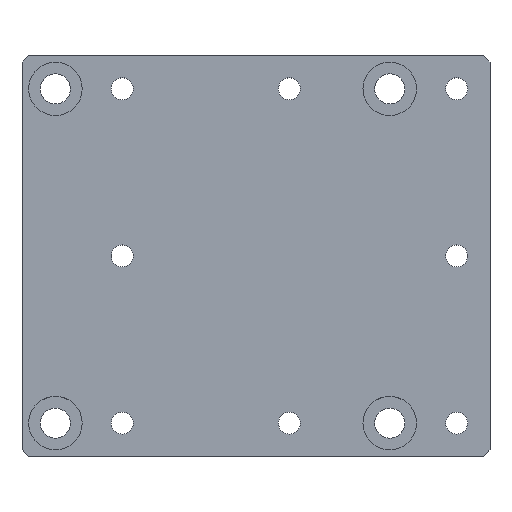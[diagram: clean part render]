
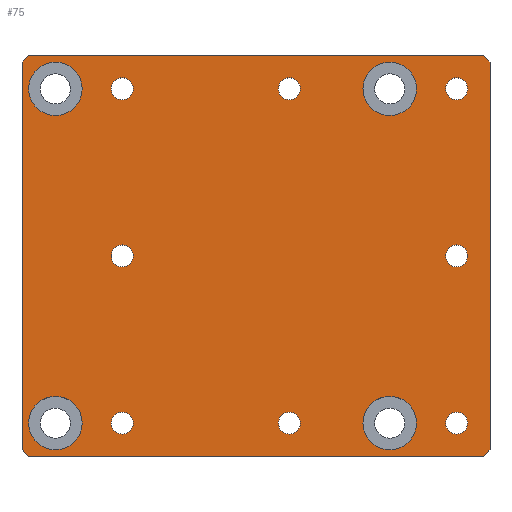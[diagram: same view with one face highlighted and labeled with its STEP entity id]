
A CAD part, top view. The second image highlights one B-rep face of the part: STEP entity #75.
In plain terms, the highlighted planar face has unit normal (0, 0, 1).
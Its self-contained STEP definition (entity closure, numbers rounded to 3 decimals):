
#75 = ADVANCED_FACE( '', ( #106, #107, #108, #109, #110, #111, #112, #113, #114, #115, #116, #117, #118 ), #119, .T. );
#106 = FACE_OUTER_BOUND( '', #210, .T. );
#107 = FACE_BOUND( '', #211, .T. );
#108 = FACE_BOUND( '', #212, .T. );
#109 = FACE_BOUND( '', #213, .T. );
#110 = FACE_BOUND( '', #214, .T. );
#111 = FACE_BOUND( '', #215, .T. );
#112 = FACE_BOUND( '', #216, .T. );
#113 = FACE_BOUND( '', #217, .T. );
#114 = FACE_BOUND( '', #218, .T. );
#115 = FACE_BOUND( '', #219, .T. );
#116 = FACE_BOUND( '', #220, .T. );
#117 = FACE_BOUND( '', #221, .T. );
#118 = FACE_BOUND( '', #222, .T. );
#119 = PLANE( '', #223 );
#210 = EDGE_LOOP( '', ( #314, #315, #316, #317, #318, #319, #320, #321 ) );
#211 = EDGE_LOOP( '', ( #322 ) );
#212 = EDGE_LOOP( '', ( #323 ) );
#213 = EDGE_LOOP( '', ( #324 ) );
#214 = EDGE_LOOP( '', ( #325 ) );
#215 = EDGE_LOOP( '', ( #326 ) );
#216 = EDGE_LOOP( '', ( #327 ) );
#217 = EDGE_LOOP( '', ( #328 ) );
#218 = EDGE_LOOP( '', ( #329 ) );
#219 = EDGE_LOOP( '', ( #330 ) );
#220 = EDGE_LOOP( '', ( #331 ) );
#221 = EDGE_LOOP( '', ( #332 ) );
#222 = EDGE_LOOP( '', ( #333 ) );
#223 = AXIS2_PLACEMENT_3D( '', #334, #335, #336 );
#314 = ORIENTED_EDGE( '', *, *, #516, .F. );
#315 = ORIENTED_EDGE( '', *, *, #517, .T. );
#316 = ORIENTED_EDGE( '', *, *, #518, .F. );
#317 = ORIENTED_EDGE( '', *, *, #519, .T. );
#318 = ORIENTED_EDGE( '', *, *, #520, .F. );
#319 = ORIENTED_EDGE( '', *, *, #521, .T. );
#320 = ORIENTED_EDGE( '', *, *, #522, .F. );
#321 = ORIENTED_EDGE( '', *, *, #523, .T. );
#322 = ORIENTED_EDGE( '', *, *, #524, .T. );
#323 = ORIENTED_EDGE( '', *, *, #525, .T. );
#324 = ORIENTED_EDGE( '', *, *, #526, .T. );
#325 = ORIENTED_EDGE( '', *, *, #527, .T. );
#326 = ORIENTED_EDGE( '', *, *, #528, .T. );
#327 = ORIENTED_EDGE( '', *, *, #529, .T. );
#328 = ORIENTED_EDGE( '', *, *, #530, .T. );
#329 = ORIENTED_EDGE( '', *, *, #531, .T. );
#330 = ORIENTED_EDGE( '', *, *, #532, .T. );
#331 = ORIENTED_EDGE( '', *, *, #533, .T. );
#332 = ORIENTED_EDGE( '', *, *, #534, .T. );
#333 = ORIENTED_EDGE( '', *, *, #535, .T. );
#334 = CARTESIAN_POINT( '', ( 0., 0., 4. ) );
#335 = DIRECTION( '', ( 0., 0., 1. ) );
#336 = DIRECTION( '', ( 1., 0., 0. ) );
#516 = EDGE_CURVE( '', #572, #573, #574, .T. );
#517 = EDGE_CURVE( '', #572, #575, #576, .T. );
#518 = EDGE_CURVE( '', #577, #575, #578, .T. );
#519 = EDGE_CURVE( '', #577, #579, #580, .T. );
#520 = EDGE_CURVE( '', #581, #579, #582, .T. );
#521 = EDGE_CURVE( '', #581, #583, #584, .T. );
#522 = EDGE_CURVE( '', #585, #583, #586, .T. );
#523 = EDGE_CURVE( '', #585, #573, #587, .T. );
#524 = EDGE_CURVE( '', #588, #588, #589, .T. );
#525 = EDGE_CURVE( '', #590, #590, #591, .T. );
#526 = EDGE_CURVE( '', #592, #592, #593, .T. );
#527 = EDGE_CURVE( '', #594, #594, #595, .T. );
#528 = EDGE_CURVE( '', #596, #596, #597, .T. );
#529 = EDGE_CURVE( '', #598, #598, #599, .T. );
#530 = EDGE_CURVE( '', #600, #600, #601, .T. );
#531 = EDGE_CURVE( '', #602, #602, #603, .T. );
#532 = EDGE_CURVE( '', #604, #604, #605, .T. );
#533 = EDGE_CURVE( '', #606, #606, #607, .T. );
#534 = EDGE_CURVE( '', #608, #608, #609, .T. );
#535 = EDGE_CURVE( '', #610, #610, #611, .T. );
#572 = VERTEX_POINT( '', #676 );
#573 = VERTEX_POINT( '', #677 );
#574 = LINE( '', #678, #679 );
#575 = VERTEX_POINT( '', #680 );
#576 = LINE( '', #681, #682 );
#577 = VERTEX_POINT( '', #683 );
#578 = LINE( '', #684, #685 );
#579 = VERTEX_POINT( '', #686 );
#580 = LINE( '', #687, #688 );
#581 = VERTEX_POINT( '', #689 );
#582 = LINE( '', #690, #691 );
#583 = VERTEX_POINT( '', #692 );
#584 = LINE( '', #693, #694 );
#585 = VERTEX_POINT( '', #695 );
#586 = LINE( '', #696, #697 );
#587 = LINE( '', #698, #699 );
#588 = VERTEX_POINT( '', #700 );
#589 = CIRCLE( '', #701, 4. );
#590 = VERTEX_POINT( '', #702 );
#591 = CIRCLE( '', #703, 4. );
#592 = VERTEX_POINT( '', #704 );
#593 = CIRCLE( '', #705, 4. );
#594 = VERTEX_POINT( '', #706 );
#595 = CIRCLE( '', #707, 4. );
#596 = VERTEX_POINT( '', #708 );
#597 = CIRCLE( '', #709, 1.65 );
#598 = VERTEX_POINT( '', #710 );
#599 = CIRCLE( '', #711, 1.65 );
#600 = VERTEX_POINT( '', #712 );
#601 = CIRCLE( '', #713, 1.65 );
#602 = VERTEX_POINT( '', #714 );
#603 = CIRCLE( '', #715, 1.65 );
#604 = VERTEX_POINT( '', #716 );
#605 = CIRCLE( '', #717, 1.65 );
#606 = VERTEX_POINT( '', #718 );
#607 = CIRCLE( '', #719, 1.65 );
#608 = VERTEX_POINT( '', #720 );
#609 = CIRCLE( '', #721, 1.65 );
#610 = VERTEX_POINT( '', #722 );
#611 = CIRCLE( '', #723, 1.65 );
#676 = CARTESIAN_POINT( '', ( -34., 30., 4. ) );
#677 = CARTESIAN_POINT( '', ( 34., 30., 4. ) );
#678 = CARTESIAN_POINT( '', ( 0., 30., 4. ) );
#679 = VECTOR( '', #804, 1000. );
#680 = CARTESIAN_POINT( '', ( -35., 29., 4. ) );
#681 = CARTESIAN_POINT( '', ( -32., 32., 4. ) );
#682 = VECTOR( '', #805, 1000. );
#683 = CARTESIAN_POINT( '', ( -35., -29., 4. ) );
#684 = CARTESIAN_POINT( '', ( -35., 0., 4. ) );
#685 = VECTOR( '', #806, 1000. );
#686 = CARTESIAN_POINT( '', ( -34., -30., 4. ) );
#687 = CARTESIAN_POINT( '', ( -32., -32., 4. ) );
#688 = VECTOR( '', #807, 1000. );
#689 = CARTESIAN_POINT( '', ( 34., -30., 4. ) );
#690 = CARTESIAN_POINT( '', ( 0., -30., 4. ) );
#691 = VECTOR( '', #808, 1000. );
#692 = CARTESIAN_POINT( '', ( 35., -29., 4. ) );
#693 = CARTESIAN_POINT( '', ( 32., -32., 4. ) );
#694 = VECTOR( '', #809, 1000. );
#695 = CARTESIAN_POINT( '', ( 35., 29., 4. ) );
#696 = CARTESIAN_POINT( '', ( 35., 0., 4. ) );
#697 = VECTOR( '', #810, 1000. );
#698 = CARTESIAN_POINT( '', ( 32., 32., 4. ) );
#699 = VECTOR( '', #811, 1000. );
#700 = CARTESIAN_POINT( '', ( -26., -25., 4. ) );
#701 = AXIS2_PLACEMENT_3D( '', #812, #813, #814 );
#702 = CARTESIAN_POINT( '', ( -26., 25., 4. ) );
#703 = AXIS2_PLACEMENT_3D( '', #815, #816, #817 );
#704 = CARTESIAN_POINT( '', ( 24., 25., 4. ) );
#705 = AXIS2_PLACEMENT_3D( '', #818, #819, #820 );
#706 = CARTESIAN_POINT( '', ( 24., -25., 4. ) );
#707 = AXIS2_PLACEMENT_3D( '', #821, #822, #823 );
#708 = CARTESIAN_POINT( '', ( 6.65, -25., 4. ) );
#709 = AXIS2_PLACEMENT_3D( '', #824, #825, #826 );
#710 = CARTESIAN_POINT( '', ( -18.35, -25., 4. ) );
#711 = AXIS2_PLACEMENT_3D( '', #827, #828, #829 );
#712 = CARTESIAN_POINT( '', ( -18.35, 0., 4. ) );
#713 = AXIS2_PLACEMENT_3D( '', #830, #831, #832 );
#714 = CARTESIAN_POINT( '', ( -18.35, 25., 4. ) );
#715 = AXIS2_PLACEMENT_3D( '', #833, #834, #835 );
#716 = CARTESIAN_POINT( '', ( 6.65, 25., 4. ) );
#717 = AXIS2_PLACEMENT_3D( '', #836, #837, #838 );
#718 = CARTESIAN_POINT( '', ( 31.65, 25., 4. ) );
#719 = AXIS2_PLACEMENT_3D( '', #839, #840, #841 );
#720 = CARTESIAN_POINT( '', ( 31.65, 0., 4. ) );
#721 = AXIS2_PLACEMENT_3D( '', #842, #843, #844 );
#722 = CARTESIAN_POINT( '', ( 31.65, -25., 4. ) );
#723 = AXIS2_PLACEMENT_3D( '', #845, #846, #847 );
#804 = DIRECTION( '', ( 1., 0., 0. ) );
#805 = DIRECTION( '', ( -0.707, -0.707, 0. ) );
#806 = DIRECTION( '', ( 0., 1., 0. ) );
#807 = DIRECTION( '', ( 0.707, -0.707, 0. ) );
#808 = DIRECTION( '', ( -1., 0., 0. ) );
#809 = DIRECTION( '', ( 0.707, 0.707, 0. ) );
#810 = DIRECTION( '', ( 0., -1., 0. ) );
#811 = DIRECTION( '', ( -0.707, 0.707, 0. ) );
#812 = CARTESIAN_POINT( '', ( -30., -25., 4. ) );
#813 = DIRECTION( '', ( 0., 0., -1. ) );
#814 = DIRECTION( '', ( 1., 0., 0. ) );
#815 = CARTESIAN_POINT( '', ( -30., 25., 4. ) );
#816 = DIRECTION( '', ( 0., 0., -1. ) );
#817 = DIRECTION( '', ( 1., 0., 0. ) );
#818 = CARTESIAN_POINT( '', ( 20., 25., 4. ) );
#819 = DIRECTION( '', ( 0., 0., -1. ) );
#820 = DIRECTION( '', ( 1., 0., 0. ) );
#821 = CARTESIAN_POINT( '', ( 20., -25., 4. ) );
#822 = DIRECTION( '', ( 0., 0., -1. ) );
#823 = DIRECTION( '', ( 1., 0., 0. ) );
#824 = CARTESIAN_POINT( '', ( 5., -25., 4. ) );
#825 = DIRECTION( '', ( 0., 0., -1. ) );
#826 = DIRECTION( '', ( 1., 0., 0. ) );
#827 = CARTESIAN_POINT( '', ( -20., -25., 4. ) );
#828 = DIRECTION( '', ( 0., 0., -1. ) );
#829 = DIRECTION( '', ( 1., 0., 0. ) );
#830 = CARTESIAN_POINT( '', ( -20., 0., 4. ) );
#831 = DIRECTION( '', ( 0., 0., -1. ) );
#832 = DIRECTION( '', ( 1., 0., 0. ) );
#833 = CARTESIAN_POINT( '', ( -20., 25., 4. ) );
#834 = DIRECTION( '', ( 0., 0., -1. ) );
#835 = DIRECTION( '', ( 1., 0., 0. ) );
#836 = CARTESIAN_POINT( '', ( 5., 25., 4. ) );
#837 = DIRECTION( '', ( 0., 0., -1. ) );
#838 = DIRECTION( '', ( 1., 0., 0. ) );
#839 = CARTESIAN_POINT( '', ( 30., 25., 4. ) );
#840 = DIRECTION( '', ( 0., 0., -1. ) );
#841 = DIRECTION( '', ( 1., 0., 0. ) );
#842 = CARTESIAN_POINT( '', ( 30., 0., 4. ) );
#843 = DIRECTION( '', ( 0., 0., -1. ) );
#844 = DIRECTION( '', ( 1., 0., 0. ) );
#845 = CARTESIAN_POINT( '', ( 30., -25., 4. ) );
#846 = DIRECTION( '', ( 0., 0., -1. ) );
#847 = DIRECTION( '', ( 1., 0., 0. ) );
